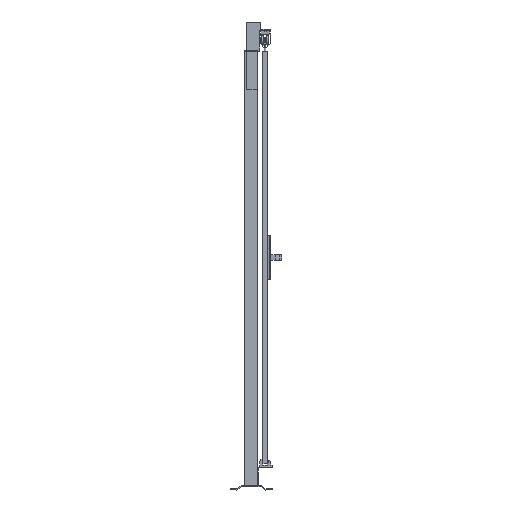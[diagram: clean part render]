
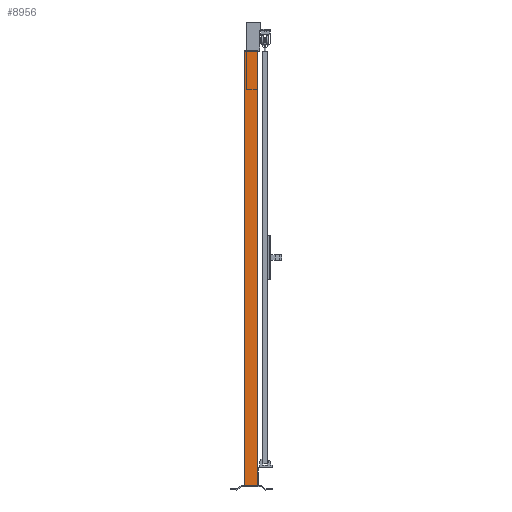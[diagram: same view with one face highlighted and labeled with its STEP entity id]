
A CAD part, left-side view. The second image highlights one B-rep face of the part: STEP entity #8956.
In plain terms, the highlighted planar face has unit normal (-1, 0, 0).
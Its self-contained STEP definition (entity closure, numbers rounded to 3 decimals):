
#872=FACE_OUTER_BOUND('',#1326,.T.);
#1326=EDGE_LOOP('',(#6553,#6554,#6555,#6556));
#2002=LINE('',#13128,#3111);
#2006=LINE('',#13137,#3115);
#2008=LINE('',#13140,#3117);
#2010=LINE('',#13143,#3119);
#3111=VECTOR('',#10493,1.);
#3115=VECTOR('',#10499,1.);
#3117=VECTOR('',#10503,1.);
#3119=VECTOR('',#10507,1.);
#4071=VERTEX_POINT('',#13125);
#4072=VERTEX_POINT('',#13127);
#4075=VERTEX_POINT('',#13134);
#4076=VERTEX_POINT('',#13136);
#5067=EDGE_CURVE('',#4071,#4072,#2002,.T.);
#5071=EDGE_CURVE('',#4075,#4076,#2006,.T.);
#5073=EDGE_CURVE('',#4072,#4075,#2008,.T.);
#5075=EDGE_CURVE('',#4071,#4076,#2010,.T.);
#6553=ORIENTED_EDGE('',*,*,#5075,.T.);
#6554=ORIENTED_EDGE('',*,*,#5071,.F.);
#6555=ORIENTED_EDGE('',*,*,#5073,.F.);
#6556=ORIENTED_EDGE('',*,*,#5067,.F.);
#8544=PLANE('',#9473);
#8956=ADVANCED_FACE('',(#872),#8544,.F.);
#9473=AXIS2_PLACEMENT_3D('',#13142,#10505,#10506);
#10493=DIRECTION('',(0.,-1.,0.));
#10499=DIRECTION('',(0.,1.,0.));
#10503=DIRECTION('',(0.,0.,-1.));
#10505=DIRECTION('center_axis',(1.,0.,0.));
#10506=DIRECTION('ref_axis',(0.,0.,-1.));
#10507=DIRECTION('',(0.,0.,-1.));
#13125=CARTESIAN_POINT('',(-30.,30.,2020.));
#13127=CARTESIAN_POINT('',(-30.,-30.,2020.));
#13128=CARTESIAN_POINT('',(-30.,0.,2020.));
#13134=CARTESIAN_POINT('',(-30.,-30.,20.));
#13136=CARTESIAN_POINT('',(-30.,30.,20.));
#13137=CARTESIAN_POINT('',(-30.,0.,20.));
#13140=CARTESIAN_POINT('',(-30.,-30.,1020.));
#13142=CARTESIAN_POINT('Origin',(-30.,0.,
1020.));
#13143=CARTESIAN_POINT('',(-30.,30.,1020.));
